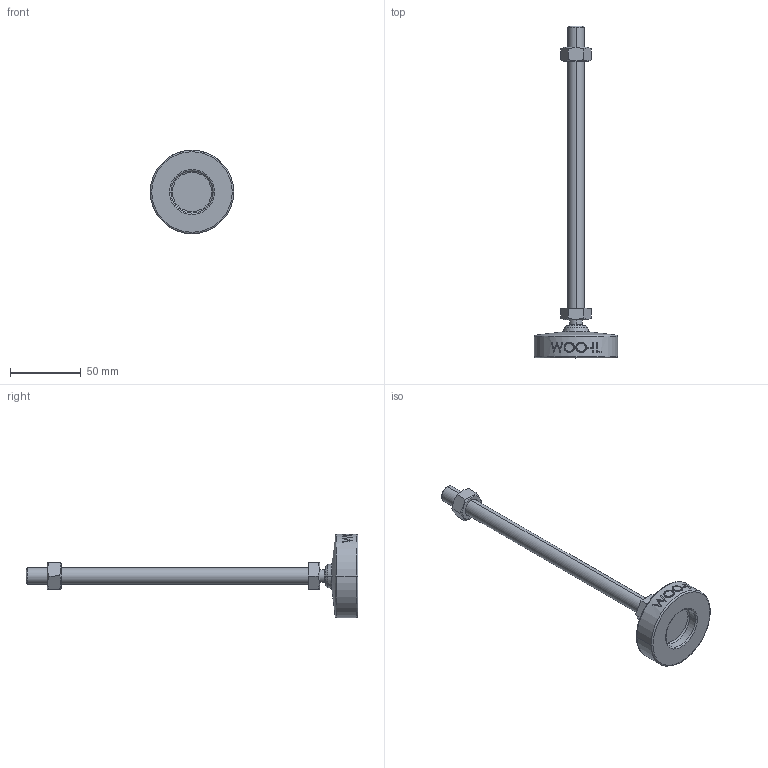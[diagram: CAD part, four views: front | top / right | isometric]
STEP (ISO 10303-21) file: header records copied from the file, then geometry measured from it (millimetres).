
FILE_DESCRIPTION (( 'STEP AP214' ), '1' );
FILE_NAME ('MFN59-M12-200.step', '2021-01-19T06:28:15', ( '' ), ( '' ), 'SwSTEP 2.0', 'SolidWorks 2019', '' );
FILE_SCHEMA (( 'AUTOMOTIVE_DESIGN' ));
Length unit declared in the file: millimetre
Products named in the file (2): MFN59-M12-200
Bounding box: 59 x 235 x 59 mm (x, y, z)
Volume: 69848.9 mm3; surface area: 19091 mm2
Topology: 2 solids, 2 shells, 109 faces, 253 edges, 160 vertices
Faces by surface type: plane 47, cone 18, cylinder 18, bspline 16, torus 8, sphere 2
Entity records: 4619 total; most frequent: CARTESIAN_POINT 2194, ORIENTED_EDGE 506, DIRECTION 461, EDGE_CURVE 253, AXIS2_PLACEMENT_3D 179, VERTEX_POINT 160, EDGE_LOOP 123, ADVANCED_FACE 109
